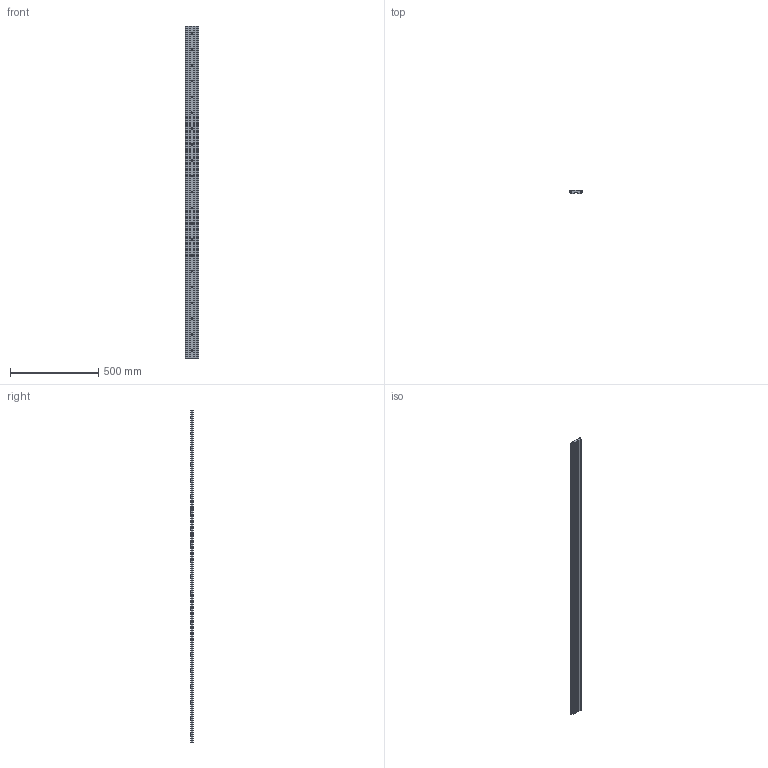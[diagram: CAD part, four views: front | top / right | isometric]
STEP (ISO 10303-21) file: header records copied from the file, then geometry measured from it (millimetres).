
FILE_DESCRIPTION(('STEP AP203'),'1');
FILE_NAME('slide_nm76l1886p3.stp','2022-05-18T17:21:29',('TraceParts'),('TraceParts S.A.'),'Spatial InterOp 3D',' ',' ');
FILE_SCHEMA(('CONFIG_CONTROL_DESIGN'));
Length unit declared in the file: millimetre
Products named in the file (1): 1
Bounding box: 76.45 x 15.91 x 1886 mm (x, y, z)
Volume: 1666097.3 mm3; surface area: 366496.4 mm2
Topology: 1 solids, 1 shells, 145 faces, 366 edges, 244 vertices
Faces by surface type: cylinder 98, plane 47
Entity records: 4584 total; most frequent: DIRECTION 854, CARTESIAN_POINT 756, ORIENTED_EDGE 732, EDGE_CURVE 366, AXIS2_PLACEMENT_3D 342, VERTEX_POINT 244, EDGE_LOOP 208, CIRCLE 196
